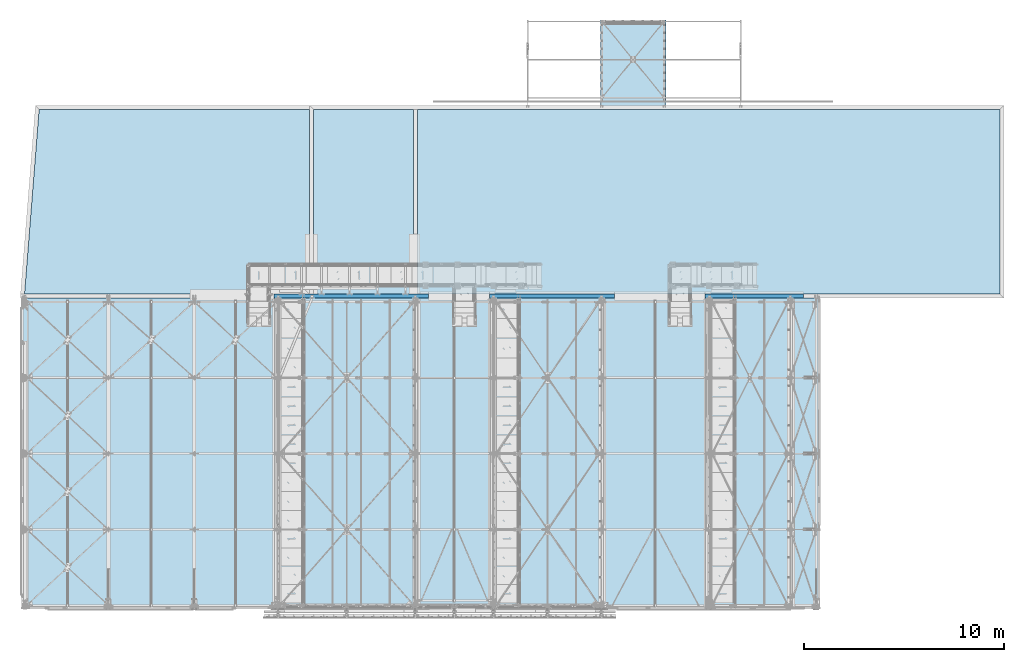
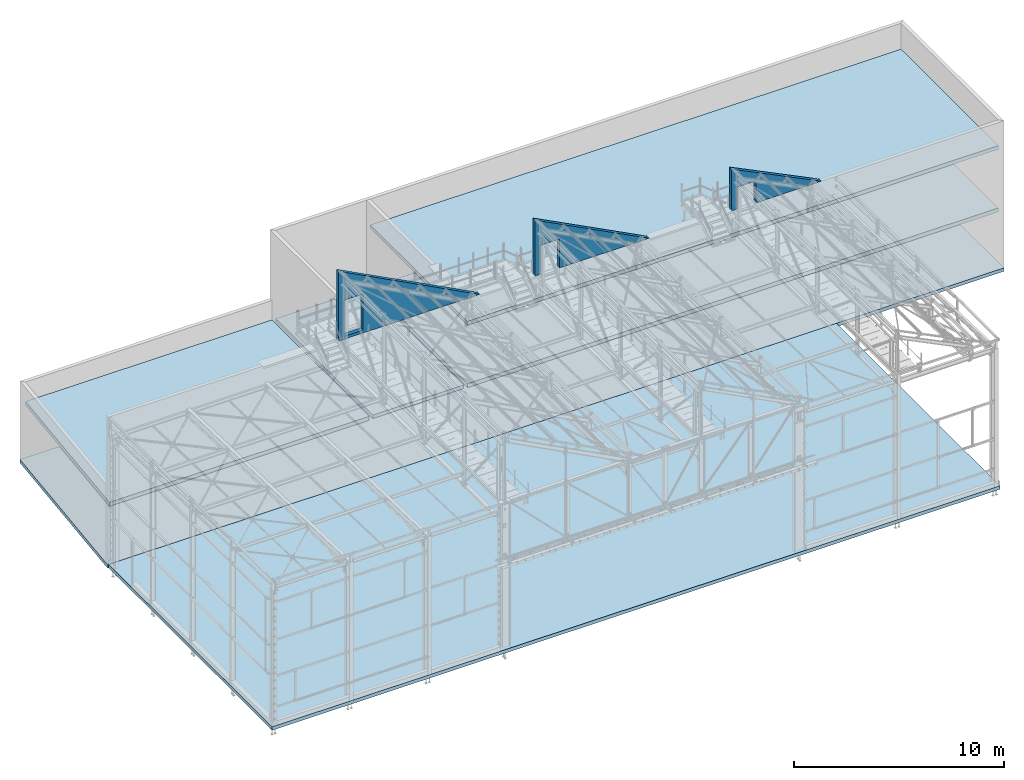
# One storey, part 131 of 362: 9 slabs, 9 elements without a shape of their own.
"""IFC2X3 building model written with IfcOpenShell, lengths in millimetres."""

from ifc_helpers import new_model, si_unit, frame, origin_with_axes, place, context, subcontext, project, spatial, polyline, outline, extrude, boolean, material, type_object, element, aggregate, save


model = new_model("IFC2X3")

# Units and contexts
model_context = context("Model", 3, precision=1e-05, world=origin_with_axes())
body_context = subcontext(model_context, "Body", "Model", "MODEL_VIEW")
ifc_project = project(units=[si_unit("LENGTHUNIT", "METRE", prefix="MILLI"), si_unit("AREAUNIT", "SQUARE_METRE"), si_unit("VOLUMEUNIT", "CUBIC_METRE"), si_unit("MASSUNIT", "GRAM", prefix="KILO"), si_unit("TIMEUNIT", "SECOND"), si_unit("PLANEANGLEUNIT", "RADIAN"), si_unit("SOLIDANGLEUNIT", "STERADIAN"), si_unit("THERMODYNAMICTEMPERATUREUNIT", "DEGREE_CELSIUS"), si_unit("LUMINOUSINTENSITYUNIT", "LUMEN")], contexts=[model_context])

# Site, building, storey
site_placement = place(None, origin_with_axes())
site = spatial("IfcSite", under=ifc_project, at=site_placement, Name="Undefined", CompositionType="ELEMENT")
building_placement = place(site_placement, origin_with_axes())
building = spatial("IfcBuilding", under=site, at=building_placement, Name="Undefined", CompositionType="ELEMENT")
storey_placement = place(building_placement, origin_with_axes())
storey = spatial("IfcBuildingStorey", under=building, at=storey_placement, Name="Undefined", CompositionType="ELEMENT", Elevation=0.0)

# Assembly, slab
assembly_1_placement = place(storey_placement, origin_with_axes())
assembly_1 = element("IfcElementAssembly", 1, at=assembly_1_placement, inside=storey, Name="DALLE", AssemblyPlace="NOTDEFINED", PredefinedType="REINFORCEMENT_UNIT")
ifc_material = material(Name="CONCRETE/C25/30")
slab_type_1 = type_object("IfcSlabType", Name="200*5000", PredefinedType="NOTDEFINED")
slab_1_placement = place(assembly_1_placement, frame((14455.0, 24839.9999999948, 3325.0), z_axis=(0.0, 0.0, 1.0), x_axis=(0.0, -1.0, 0.0)))
slab_1 = element("IfcSlab", 2, at=slab_1_placement, type_object=slab_type_1, material=ifc_material, Name="DALLE", ObjectType="200*5000", PredefinedType="FLOOR", context=body_context, shape_type="SweptSolid", body=[
    extrude(outline(polyline([(0.0, 0.0), (9250.0, 3.63797880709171e-12), (9250.0009765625, 4999.998046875), (0.000105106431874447, 5000.0), (0.0, 0.0)])), frame((0.0, 0.0, -100.0), z_axis=(0.0, 0.0, 1.0), x_axis=(1.0, 0.0, 0.0)), (0.0, 0.0, 1.0), 200.0),
])
aggregate(assembly_1, [slab_1])

assembly_2_placement = place(storey_placement, origin_with_axes())
assembly_2 = element("IfcElementAssembly", 3, at=assembly_2_placement, inside=storey, Name="DALLE", AssemblyPlace="NOTDEFINED", PredefinedType="REINFORCEMENT_UNIT")
slab_type_2 = type_object("IfcSlabType", Name="200*15570", PredefinedType="NOTDEFINED")
slab_2_placement = place(assembly_2_placement, frame((39824.9971504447, -180.0, -100.0), z_axis=(0.0, 0.0, 1.0), x_axis=(0.0, 1.0, 0.0)))
slab_2 = element("IfcSlab", 4, at=slab_2_placement, type_object=slab_type_2, material=ifc_material, Name="DALLE", ObjectType="200*15570", PredefinedType="FLOOR", context=body_context, shape_type="SweptSolid", body=[
    extrude(outline(polyline([(0.0, 0.0), (15570.0, -2.73066689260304e-08), (15569.9999999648, 40004.9960937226), (-6.12302781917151e-05, 40004.99609375), (0.0, 0.0)])), frame((0.0, 0.0, -100.0), z_axis=(0.0, 0.0, 1.0), x_axis=(1.0, 0.0, 0.0)), (0.0, 0.0, 1.0), 200.0),
])
aggregate(assembly_2, [slab_2])

assembly_3_placement = place(storey_placement, origin_with_axes())
assembly_3 = element("IfcElementAssembly", 5, at=assembly_3_placement, inside=storey, Name="DALLE", AssemblyPlace="NOTDEFINED", PredefinedType="REINFORCEMENT_UNIT")
slab_type_3 = type_object("IfcSlabType", Name="200*2425", PredefinedType="NOTDEFINED")
slab_3_placement = place(assembly_3_placement, frame((34063.5, 15489.999472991, 10975.4455339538), z_axis=(0.0, -1.0, 0.0), x_axis=(0.0, 0.0, -1.0)))
slab_3 = element("IfcSlab", 6, at=slab_3_placement, type_object=slab_type_3, material=ifc_material, Name="DALLE", ObjectType="200*2425", PredefinedType="FLOOR", context=body_context, shape_type="CSG", body=[
    boolean("DIFFERENCE", extrude(outline(polyline([(0.0, 0.0), (2425.44555664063, 0.0), (2425.44555664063, 4933.109375), (0.0, 0.0)])), frame((0.0, 0.0, -100.0), z_axis=(0.0, 0.0, 1.0), x_axis=(1.0, 0.0, 0.0)), (0.0, 0.0, 1.0), 200.0), extrude(outline(polyline([(0.0, 0.0), (1700.0, 0.0), (1700.0, 1065.0), (0.0, 1065.0), (0.0, 0.0)])), frame((1145.44553395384, 1348.0, 102.5), z_axis=(0.0, 0.0, -1.0), x_axis=(1.0, 0.0, 0.0)), (0.0, 0.0, 1.0), 205.0)),
])
aggregate(assembly_3, [slab_3])

assembly_4_placement = place(storey_placement, origin_with_axes())
assembly_4 = element("IfcElementAssembly", 7, at=assembly_4_placement, inside=storey, Name="DALLE", AssemblyPlace="NOTDEFINED", PredefinedType="REINFORCEMENT_UNIT")
slab_type_4 = type_object("IfcSlabType", Name="200*3249", PredefinedType="NOTDEFINED")
slab_4_placement = place(assembly_4_placement, frame((23253.5000017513, 15489.9996870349, 11799.0364397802), z_axis=(0.0, -1.0, 0.0), x_axis=(0.0, 0.0, -1.0)))
slab_4 = element("IfcSlab", 8, at=slab_4_placement, type_object=slab_type_4, material=ifc_material, Name="DALLE", ObjectType="200*3249", PredefinedType="FLOOR", context=body_context, shape_type="CSG", body=[
    boolean("DIFFERENCE", extrude(outline(polyline([(0.0, 0.0), (3249.03637695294, 4.86907083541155e-08), (3249.03637695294, 6269.86816411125), (0.0, 0.0)])), frame((0.0, 0.0, -100.0), z_axis=(0.0, 0.0, 1.0), x_axis=(1.0, 0.0, 0.0)), (0.0, 0.0, 1.0), 200.0), extrude(outline(polyline([(0.0, 0.0), (2100.0, 0.0), (2100.0, 1065.0), (0.0, 1065.0), (0.0, 0.0)])), frame((1569.03643978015, 282.999996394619, -102.999948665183), z_axis=(0.0, 0.0, 1.0), x_axis=(1.0, 0.0, 0.0)), (0.0, 0.0, 1.0), 206.0)),
])
aggregate(assembly_4, [slab_4])

assembly_5_placement = place(storey_placement, origin_with_axes())
assembly_5 = element("IfcElementAssembly", 9, at=assembly_5_placement, inside=storey, Name="DALLE", AssemblyPlace="NOTDEFINED", PredefinedType="REINFORCEMENT_UNIT")
slab_type_5 = type_object("IfcSlabType", Name="200*4052", PredefinedType="NOTDEFINED")
slab_5_placement = place(assembly_5_placement, frame((12463.5000011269, 15489.9997800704, 12602.0151979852), z_axis=(0.0, -1.0, 0.0), x_axis=(0.0, 0.0, -1.0)))
slab_5 = element("IfcSlab", 10, at=slab_5_placement, type_object=slab_type_5, material=ifc_material, Name="DALLE", ObjectType="200*4052", PredefinedType="FLOOR", context=body_context, shape_type="CSG", body=[
    boolean("DIFFERENCE", extrude(outline(polyline([(0.0, 0.0), (4052.01513671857, -2.6855559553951e-08), (4052.01489257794, 7745.84130856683), (0.0, 0.0)])), frame((0.0, 0.0, -100.0), z_axis=(0.0, 0.0, 1.0), x_axis=(1.0, 0.0, 0.0)), (0.0, 0.0, 1.0), 200.0), extrude(outline(polyline([(0.0, 0.0), (2100.0, 0.0), (2100.0, 1065.0), (6.12666408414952e-05, 1065.0), (0.0, 0.0)])), frame((1782.01513671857, 283.009997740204, -102.999960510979), z_axis=(0.0, 0.0, 1.0), x_axis=(1.0, 0.0, 0.0)), (0.0, 0.0, 1.0), 206.0)),
])
aggregate(assembly_5, [slab_5])

assembly_6_placement = place(storey_placement, origin_with_axes())
assembly_6 = element("IfcElementAssembly", 11, at=assembly_6_placement, inside=storey, Name="DALLE", AssemblyPlace="NOTDEFINED", PredefinedType="REINFORCEMENT_UNIT")
slab_type_6 = type_object("IfcSlabType", Name="200*13930", PredefinedType="NOTDEFINED")
slab_6_placement = place(assembly_6_placement, frame((521.592823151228, 25040.0000000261, -100.0), z_axis=(0.0, 0.0, 1.0), x_axis=(-0.0788018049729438, -0.996890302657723, 0.0)))
slab_6 = element("IfcSlab", 12, at=slab_6_placement, type_object=slab_type_6, material=ifc_material, Name="DALLE", ObjectType="200*13930", PredefinedType="FLOOR", context=body_context, shape_type="SweptSolid", body=[
    extrude(outline(polyline([(0.0, 0.0), (9347.4101561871, -3.21924744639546e-08), (9678.03613274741, 26.1351794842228), (5797.20556643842, 49120.988281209), (-3822.78637685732, 48360.5507812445), (-2487.88403314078, 31473.2304687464), (-6754.57421865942, 31135.9570312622), (-6496.1044921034, 27866.1582031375), (-2229.41406244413, 28203.4296874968), (0.0, 0.0)])), frame((0.0, 0.0, -100.0), z_axis=(0.0, 0.0, 1.0), x_axis=(1.0, 0.0, 0.0)), (0.0, 0.0, 1.0), 200.0),
])
aggregate(assembly_6, [slab_6])

assembly_7_placement = place(storey_placement, origin_with_axes())
assembly_7 = element("IfcElementAssembly", 13, at=assembly_7_placement, inside=storey, Name="DALLE", AssemblyPlace="NOTDEFINED", PredefinedType="REINFORCEMENT_UNIT")
slab_type_7 = type_object("IfcSlabType", Name="230*9250", PredefinedType="NOTDEFINED")
slab_7_placement = place(assembly_7_placement, frame((19655.0, 24839.9999999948, 3310.0), z_axis=(0.0, 0.0, 1.0), x_axis=(0.0, -1.0, 0.0)))
slab_7 = element("IfcSlab", 14, at=slab_7_placement, type_object=slab_type_7, material=ifc_material, Name="DALLE", ObjectType="230*9250", PredefinedType="FLOOR", context=body_context, shape_type="SweptSolid", body=[
    extrude(outline(polyline([(0.0, 0.0), (9250.0, 3.63797880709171e-12), (9250.0009765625, 29177.998046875), (0.000105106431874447, 29178.0), (0.0, 0.0)])), frame((0.0, 0.0, -115.0), z_axis=(0.0, 0.0, 1.0), x_axis=(1.0, 0.0, 0.0)), (0.0, 0.0, 1.0), 230.0),
])
aggregate(assembly_7, [slab_7])

assembly_8_placement = place(storey_placement, origin_with_axes())
assembly_8 = element("IfcElementAssembly", 15, at=assembly_8_placement, inside=storey, Name="DALLE", AssemblyPlace="NOTDEFINED", PredefinedType="REINFORCEMENT_UNIT")
slab_8_placement = place(assembly_8_placement, frame((706.407178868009, 24839.9999996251, 3310.0), z_axis=(0.0, 0.0, 1.0), x_axis=(-0.0788018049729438, -0.996890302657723, 0.0)))
slab_8 = element("IfcSlab", 16, at=slab_8_placement, type_object=slab_type_7, material=ifc_material, Name="DALLE", ObjectType="230*9250", PredefinedType="FLOOR", context=body_context, shape_type="SweptSolid", body=[
    extrude(outline(polyline([(0.0, 0.0), (9278.85351568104, 3.96833002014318e-08), (8153.59130869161, 14235.3720703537), (-1067.64440914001, 13506.4628906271), (0.0, 0.0)])), frame((0.0, 0.0, -115.0), z_axis=(0.0, 0.0, 1.0), x_axis=(1.0, 0.0, 0.0)), (0.0, 0.0, 1.0), 230.0),
])
aggregate(assembly_8, [slab_8])

assembly_9_placement = place(storey_placement, origin_with_axes())
assembly_9 = element("IfcElementAssembly", 17, at=assembly_9_placement, inside=storey, Name="DALLE", AssemblyPlace="NOTDEFINED", PredefinedType="REINFORCEMENT_UNIT")
slab_type_8 = type_object("IfcSlabType", Name="220*9250", PredefinedType="NOTDEFINED")
slab_9_placement = place(assembly_9_placement, frame((19655.0, 24839.9999999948, 6940.0), z_axis=(0.0, 0.0, 1.0), x_axis=(0.0, -1.0, 0.0)))
slab_9 = element("IfcSlab", 18, at=slab_9_placement, type_object=slab_type_8, material=ifc_material, Name="DALLE", ObjectType="220*9250", PredefinedType="FLOOR", context=body_context, shape_type="SweptSolid", body=[
    extrude(outline(polyline([(0.0, 0.0), (9250.0, 3.63797880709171e-12), (9250.0009765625, 29177.998046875), (0.000105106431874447, 29178.0), (0.0, 0.0)])), frame((0.0, 0.0, -110.0), z_axis=(0.0, 0.0, 1.0), x_axis=(1.0, 0.0, 0.0)), (0.0, 0.0, 1.0), 220.0),
])
aggregate(assembly_9, [slab_9])

save(model, "model.ifc")
